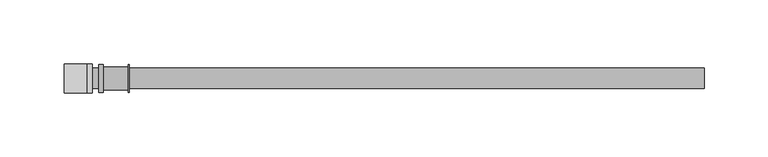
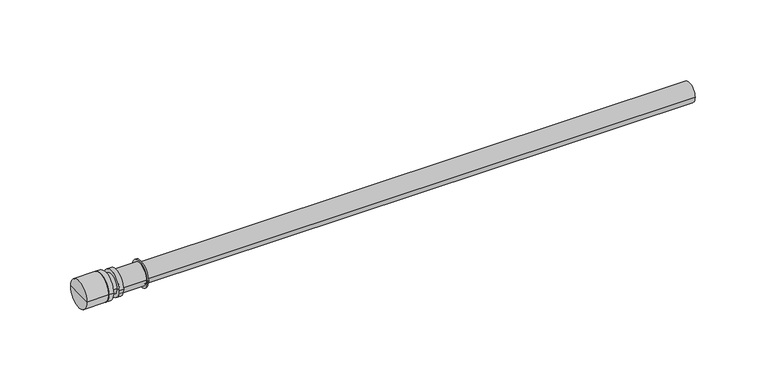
"""IFC4 building model written with IfcOpenShell, lengths in millimetres: pipe fitting geometry, KAN-therm Push 18x2 element połaczeniowy do grzejnika : KAN-therm Push 18x2 element połaczeniowy do grzejnika."""

import ifcopenshell
import ifcopenshell.guid

model = None  # the IFC model being written
_history = None  # IfcOwnerHistory: only IFC2X3 demands one
_inside = {}  # id of a spatial element -> (the spatial element, [elements in it])
_under = {}  # id of a project, library or spatial element -> (it, [spatial elements below it])
_declared = {}  # id of a project -> (the project, [libraries it declares])
_typed = {}  # id of a type object -> (the type object, [elements of that type])
_made_of = {}  # id of a material, layer set ... -> (it, [elements and type objects made of it])


def new_model(schema):
    """Start an empty IFC model of exactly this schema.

    Asked for "IFC4X3", IfcOpenShell would pick the latest addendum, in which some entities
    have other attributes; the version numbers below select the first issue.
    IFC2X3 requires an IfcOwnerHistory on every rooted entity: one is made here for all.
    """
    global model, _history
    if schema == "IFC4X3":
        model = ifcopenshell.file(schema_version=(4, 3, 0, 0))
    else:
        model = ifcopenshell.file(schema=schema)
    _inside.clear()
    _under.clear()
    _declared.clear()
    _typed.clear()
    _made_of.clear()
    _history = None
    if model.schema == "IFC2X3":
        org = make("IfcOrganization", Name="unknown")
        user = make(
            "IfcPersonAndOrganization",
            ThePerson=make("IfcPerson", FamilyName="unknown"),
            TheOrganization=org,
        )
        app = make(
            "IfcApplication",
            ApplicationDeveloper=org,
            Version="unknown",
            ApplicationFullName="unknown",
            ApplicationIdentifier="unknown",
        )
        _history = make(
            "IfcOwnerHistory",
            OwningUser=user,
            OwningApplication=app,
            ChangeAction="ADDED",
            CreationDate=0,
        )
    return model


def make(cls, **values):
    """One entity of the class cls with the attributes given. An attribute that is None is left unset."""
    return model.create_entity(
        cls, **{name: value for name, value in values.items() if value is not None}
    )


def rooted(cls, **values):
    """An entity with a GlobalId (a new one), such as an element, a storey or a relation."""
    return make(cls, GlobalId=ifcopenshell.guid.new(), OwnerHistory=_history, **values)


def si_unit(unit_type, name, prefix=None):
    """IfcSIUnit, for example si_unit("LENGTHUNIT", "METRE", prefix="MILLI")."""
    return make("IfcSIUnit", UnitType=unit_type, Prefix=prefix, Name=name)


def assignment(units):
    """IfcUnitAssignment: the units of a project."""
    return None if units is None else make("IfcUnitAssignment", Units=units)


def point(xyz):
    """IfcCartesianPoint."""
    return None if xyz is None else make("IfcCartesianPoint", Coordinates=xyz)


def direction(xyz):
    """IfcDirection."""
    return None if xyz is None else make("IfcDirection", DirectionRatios=xyz)


def frame(location, z_axis=None, x_axis=None):
    """IfcAxis2Placement3D, a coordinate frame: its origin and axes. An axis left out is left unset."""
    return make(
        "IfcAxis2Placement3D",
        Location=point(location),
        Axis=direction(z_axis),
        RefDirection=direction(x_axis),
    )


def origin():
    """The frame at (0, 0, 0) with its axes left unset."""
    return frame((0.0, 0.0, 0.0))


def place(relative_to, where):
    """IfcLocalPlacement: puts the frame where relative to a parent placement (None: the world)."""
    return make(
        "IfcLocalPlacement", PlacementRelTo=relative_to, RelativePlacement=where
    )


def context(
    kind, dimensions, precision=None, world=None, true_north=None, identifier=None
):
    """IfcGeometricRepresentationContext, for example the 3D "Model" context."""
    return make(
        "IfcGeometricRepresentationContext",
        ContextIdentifier=identifier,
        ContextType=kind,
        CoordinateSpaceDimension=dimensions,
        Precision=precision,
        WorldCoordinateSystem=world,
        TrueNorth=true_north,
    )


def project(units=None, contexts=None):
    """IfcProject with its units and contexts."""
    return rooted(
        "IfcProject",
        Name="project",
        RepresentationContexts=contexts,
        UnitsInContext=assignment(units),
    )


def spatial(cls, under=None, at=None, **own):
    """A site, building, storey or space (cls), placed at a placement, below another one or the project."""
    s = rooted(cls, ObjectPlacement=at, **own)
    if under is not None:
        _under.setdefault(under.id(), (under, []))[1].append(s)
    return s


def circle_curve(where, radius):
    """IfcCircle in the frame where."""
    return make("IfcCircle", Position=where, Radius=radius)


def shape(context_of_items, identifier, shape_type, items):
    """IfcShapeRepresentation: the items that make up one representation, for example the "Body"."""
    return make(
        "IfcShapeRepresentation",
        ContextOfItems=context_of_items,
        RepresentationIdentifier=identifier,
        RepresentationType=shape_type,
        Items=items,
    )


def source(mapping_origin, context_of_items, identifier, shape_type, items):
    """IfcRepresentationMap: a shape defined once, which mapped items show again and again."""
    return make(
        "IfcRepresentationMap",
        MappingOrigin=mapping_origin,
        MappedRepresentation=shape(context_of_items, identifier, shape_type, items),
    )


def transform(
    local_origin,
    x_axis=None,
    y_axis=None,
    z_axis=None,
    scale=None,
    scale2=None,
    scale3=None,
    uniform=True,
):
    """IfcCartesianTransformationOperator3D, or its non-uniform kind. x_axis, y_axis, z_axis: its Axis1, 2, 3."""
    if uniform:
        return make(
            "IfcCartesianTransformationOperator3D",
            Axis1=direction(x_axis),
            Axis2=direction(y_axis),
            LocalOrigin=point(local_origin),
            Scale=scale,
            Axis3=direction(z_axis),
        )
    return make(
        "IfcCartesianTransformationOperator3DnonUniform",
        Axis1=direction(x_axis),
        Axis2=direction(y_axis),
        LocalOrigin=point(local_origin),
        Scale=scale,
        Axis3=direction(z_axis),
        Scale2=scale2,
        Scale3=scale3,
    )


def mapped(mapping_source, mapping_target):
    """IfcMappedItem: shows the shape of a source again, moved by a transform."""
    return make(
        "IfcMappedItem", MappingSource=mapping_source, MappingTarget=mapping_target
    )


def made_of(thing, what):
    """Note that an element or type object is made of a material, layer set ...; save() writes the relation."""
    if what is not None:
        _made_of.setdefault(what.id(), (what, []))[1].append(thing)
    return thing


def element(
    cls,
    number,
    at=None,
    inside=None,
    cuts=None,
    type_object=None,
    material=None,
    context=None,
    identifier="Body",
    shape_type=None,
    held_by="IfcProductDefinitionShape",
    body=None,
    shapes=None,
    **own,
):
    """One element of the class cls, such as IfcWall. Its Tag is "e" and its number.

    at: its placement. inside: the storey or other place that contains it. cuts: it is an
    opening in that element (IfcRelVoidsElement). A single representation is given by context,
    identifier, shape_type and body (its items); several are given by shapes. held_by: the class
    of the entity that holds the representations. save() writes the other relations.
    """
    e = rooted(cls, Tag="e%d" % number, ObjectPlacement=at, **own)
    if body is not None:
        shapes = [shape(context, identifier, shape_type, body)]
    if shapes is not None:
        e.Representation = make(held_by, Representations=shapes)
    if inside is not None:
        _inside.setdefault(inside.id(), (inside, []))[1].append(e)
    if cuts is not None:
        rooted(
            "IfcRelVoidsElement", RelatingBuildingElement=cuts, RelatedOpeningElement=e
        )
    if type_object is not None:
        _typed.setdefault(type_object.id(), (type_object, []))[1].append(e)
    return made_of(e, material)


def aggregate(whole, parts):
    """IfcRelAggregates: a whole, such as a stair, and the parts it consists of."""
    return rooted("IfcRelAggregates", RelatingObject=whole, RelatedObjects=parts)


def save(model, path):
    """Write the relations noted so far, then the file.

    IfcRelAggregates (storeys below a building ...), IfcRelContainedInSpatialStructure (elements
    in a storey), IfcRelDefinesByType, IfcRelAssociatesMaterial and IfcRelDeclares: one each for
    every whole, place, type object, material and project.
    """
    for whole, parts in _under.values():
        aggregate(whole, parts)
    for where, things in _inside.values():
        rooted(
            "IfcRelContainedInSpatialStructure",
            RelatedElements=things,
            RelatingStructure=where,
        )
    for kind, things in _typed.values():
        rooted("IfcRelDefinesByType", RelatedObjects=things, RelatingType=kind)
    for what, things in _made_of.values():
        rooted("IfcRelAssociatesMaterial", RelatedObjects=things, RelatingMaterial=what)
    for by, libraries in _declared.values():
        rooted("IfcRelDeclares", RelatingContext=by, RelatedDefinitions=libraries)
    model.write(path)


def plane_surface(at):
    """IfcPlane: the flat surface through the origin of the frame at, square to its z axis."""
    return make("IfcPlane", Position=at)


def cylinder_surface(at, radius):
    """IfcCylindricalSurface: all points at the distance radius from the z axis of the frame at."""
    return make("IfcCylindricalSurface", Position=at, Radius=radius)


def advanced_brep(points, edges, surfaces, faces):
    """IfcAdvancedBrep: a solid bounded by faces that lie on surfaces and meet in shared edges.

    An edge is (start, end): straight between two places in points (the first is 0);
    or (start, end, curve); or (start, end, curve, False) where it runs against its curve.
    A face is (place in surfaces, loops), or (place, loops, False) where it looks against
    its surface's normal. A loop lists edges by number (the first is 1), with a minus sign
    where the edge is run from its end to its start. The first loop is the outer one.
    """
    corners = [point(p) for p in points]
    vertices = [make("IfcVertexPoint", VertexGeometry=c) for c in corners]
    made = []
    for start, end, *more in edges:
        made.append(
            make(
                "IfcEdgeCurve",
                EdgeStart=vertices[start],
                EdgeEnd=vertices[end],
                EdgeGeometry=more[0] if more else make("IfcPolyline", Points=[corners[start], corners[end]]),
                SameSense=more[1] if len(more) > 1 else True,
            )
        )
    hull = []
    for where, loops, *sense in faces:
        bounds = []
        for j, loop in enumerate(loops):
            ring = [make("IfcOrientedEdge", EdgeElement=made[abs(k) - 1], Orientation=k > 0) for k in loop]
            bounds.append(
                make(
                    "IfcFaceOuterBound" if j == 0 else "IfcFaceBound",
                    Bound=make("IfcEdgeLoop", EdgeList=ring),
                    Orientation=True,
                )
            )
        hull.append(make("IfcAdvancedFace", Bounds=bounds, FaceSurface=surfaces[where], SameSense=sense[0] if sense else True))
    return make("IfcAdvancedBrep", Outer=make("IfcClosedShell", CfsFaces=hull))


def pipe_fitting_e040945a(model_context):
    return source(origin(), model_context, "Body", "AdvancedBrep", [
        advanced_brep(
        [(-5.0, 11.5, 0.0), (-5.0, -11.5, 0.0), (-5.0, 0.0, 0.0), (-1.0, 11.5, 0.0), (-1.0, -11.5, 0.0), (-1.0, 0.0, 0.0)],
        [
            (0, 1, circle_curve(frame((-5.0, 0.0, 0.0), z_axis=(-1.0, 0.0, 0.0), x_axis=(0.0, -1.0, 0.0)), 11.5)),
            (1, 2),
            (2, 0),
            (1, 0, circle_curve(frame((-5.0, 0.0, 0.0), z_axis=(-1.0, 0.0, 0.0), x_axis=(0.0, -1.0, 0.0)), 11.5)),
            (3, 4, circle_curve(frame((-1.0, 0.0, 0.0), z_axis=(-1.0, 0.0, 0.0), x_axis=(0.0, -1.0, 0.0)), 11.5)),
            (4, 1),
            (0, 3),
            (4, 3, circle_curve(frame((-1.0, 0.0, 0.0), z_axis=(-1.0, 0.0, 0.0), x_axis=(0.0, -1.0, 0.0)), 11.5)),
            (5, 4),
            (3, 5),
        ],
        [
            plane_surface(frame((-5.0, 0.0, 0.0), z_axis=(-1.0, 0.0, 0.0), x_axis=(0.0, -1.0, 0.0))),
            cylinder_surface(frame((-2000.0, 0.0, 0.0), z_axis=(1.0, 0.0, 0.0), x_axis=(0.0, -1.0, 0.0)), 11.5),
            plane_surface(frame((-1.0, 0.0, 0.0), z_axis=(1.0, 0.0, 0.0), x_axis=(0.0, -1.0, 0.0))),
        ],
        [
            (0, [[1, 2, 3]]),
            (0, [[4, -3, -2]]),
            (1, [[5, 6, -1, 7]]),
            (1, [[8, -7, -4, -6]]),
            (2, [[9, -5, 10]]),
            (2, [[-10, -8, -9]]),
        ],
    ),
        advanced_brep(
        [(-23.0, 11.5, 0.0), (-23.0, -11.5, 0.0), (-23.0, 0.0, 0.0), (-5.0, 11.5, 0.0), (-5.0, -11.5, 0.0), (-5.0, 0.0, 0.0)],
        [
            (0, 1, circle_curve(frame((-23.0, 0.0, 0.0), z_axis=(-1.0, 0.0, 0.0), x_axis=(0.0, -1.0, 0.0)), 11.5)),
            (1, 2),
            (2, 0),
            (1, 0, circle_curve(frame((-23.0, 0.0, 0.0), z_axis=(-1.0, 0.0, 0.0), x_axis=(0.0, -1.0, 0.0)), 11.5)),
            (3, 4, circle_curve(frame((-5.0, 0.0, 0.0), z_axis=(-1.0, 0.0, 0.0), x_axis=(0.0, -1.0, 0.0)), 11.5)),
            (4, 1),
            (0, 3),
            (4, 3, circle_curve(frame((-5.0, 0.0, 0.0), z_axis=(-1.0, 0.0, 0.0), x_axis=(0.0, -1.0, 0.0)), 11.5)),
            (5, 4),
            (3, 5),
        ],
        [
            plane_surface(frame((-23.0, 0.0, 0.0), z_axis=(-1.0, 0.0, 0.0), x_axis=(0.0, -1.0, 0.0))),
            cylinder_surface(frame((-2000.0, 0.0, 0.0), z_axis=(1.0, 0.0, 0.0), x_axis=(0.0, -1.0, 0.0)), 11.5),
            plane_surface(frame((-5.0, 0.0, 0.0), z_axis=(1.0, 0.0, 0.0), x_axis=(0.0, -1.0, 0.0))),
        ],
        [
            (0, [[1, 2, 3]]),
            (0, [[4, -3, -2]]),
            (1, [[5, 6, -1, 7]]),
            (1, [[8, -7, -4, -6]]),
            (2, [[9, -5, 10]]),
            (2, [[-10, -8, -9]]),
        ],
    ),
        advanced_brep(
        [(7.5, -10.8, 0.0), (7.5, 10.8, 0.0), (7.5, 0.0, 0.0), (4.0, -10.8, 0.0), (4.0, 10.8, 0.0), (4.0, 0.0, 0.0)],
        [
            (0, 1, circle_curve(frame((7.5, 0.0, 0.0), z_axis=(1.0, 0.0, 0.0), x_axis=(0.0, 1.0, 0.0)), 10.8)),
            (1, 2),
            (2, 0),
            (1, 0, circle_curve(frame((7.5, 0.0, 0.0), z_axis=(1.0, 0.0, 0.0), x_axis=(0.0, 1.0, 0.0)), 10.8)),
            (3, 4, circle_curve(frame((4.0, 0.0, 0.0), z_axis=(1.0, 0.0, 0.0), x_axis=(0.0, 1.0, 0.0)), 10.8)),
            (4, 1),
            (0, 3),
            (4, 3, circle_curve(frame((4.0, 0.0, 0.0), z_axis=(1.0, 0.0, 0.0), x_axis=(0.0, 1.0, 0.0)), 10.8)),
            (5, 4),
            (3, 5),
        ],
        [
            plane_surface(frame((7.5, 0.0, 0.0), z_axis=(1.0, 0.0, 0.0), x_axis=(0.0, 1.0, 0.0))),
            cylinder_surface(frame((2005.0, 0.0, 0.0), z_axis=(-1.0, 0.0, 0.0), x_axis=(0.0, 1.0, 0.0)), 10.8),
            plane_surface(frame((4.0, 0.0, 0.0), z_axis=(-1.0, 0.0, 0.0), x_axis=(0.0, 1.0, 0.0))),
        ],
        [
            (0, [[1, 2, 3]]),
            (0, [[4, -3, -2]]),
            (1, [[5, 6, -1, 7]]),
            (1, [[8, -7, -4, -6]]),
            (2, [[9, -5, 10]]),
            (2, [[-10, -8, -9]]),
        ],
    ),
        advanced_brep(
        [(28.0, -10.8, 0.0), (28.0, 10.8, 0.0), (28.0, 0.0, 0.0), (27.2, -10.8, 0.0), (27.2, 10.8, 0.0), (7.5, -9.0, 0.0), (7.5, 9.0, 0.0), (27.2, 9.0, 0.0), (27.2, -9.0, 0.0), (7.5, 0.0, 0.0)],
        [
            (0, 1, circle_curve(frame((28.0, 0.0, 0.0), z_axis=(1.0, 0.0, 0.0), x_axis=(0.0, 1.0, 0.0)), 10.8)),
            (1, 2),
            (2, 0),
            (1, 0, circle_curve(frame((28.0, 0.0, 0.0), z_axis=(1.0, 0.0, 0.0), x_axis=(0.0, 1.0, 0.0)), 10.8)),
            (3, 4, circle_curve(frame((27.2, 0.0, 0.0), z_axis=(1.0, 0.0, 0.0), x_axis=(0.0, 1.0, 0.0)), 10.8)),
            (4, 1),
            (0, 3),
            (4, 3, circle_curve(frame((27.2, 0.0, 0.0), z_axis=(1.0, 0.0, 0.0), x_axis=(0.0, 1.0, 0.0)), 10.8)),
            (5, 6, circle_curve(frame((7.5, 0.0, 0.0), z_axis=(1.0, 0.0, 0.0), x_axis=(0.0, 1.0, 0.0)), 9.0)),
            (6, 7),
            (7, 8, circle_curve(frame((27.2, 0.0, 0.0), z_axis=(-1.0, 0.0, 0.0), x_axis=(0.0, 1.0, 0.0)), 9.0)),
            (8, 5),
            (6, 5, circle_curve(frame((7.5, 0.0, 0.0), z_axis=(1.0, 0.0, 0.0), x_axis=(0.0, 1.0, 0.0)), 9.0)),
            (8, 7, circle_curve(frame((27.2, 0.0, 0.0), z_axis=(-1.0, 0.0, 0.0), x_axis=(0.0, 1.0, 0.0)), 9.0)),
            (9, 6),
            (5, 9),
            (7, 4),
            (3, 8),
        ],
        [
            plane_surface(frame((28.0, 0.0, 0.0), z_axis=(1.0, 0.0, 0.0), x_axis=(0.0, 1.0, 0.0))),
            cylinder_surface(frame((2005.0, 0.0, 0.0), z_axis=(-1.0, 0.0, 0.0), x_axis=(0.0, 1.0, 0.0)), 10.8),
            cylinder_surface(frame((2005.0, 0.0, 0.0), z_axis=(-1.0, 0.0, 0.0), x_axis=(0.0, 1.0, 0.0)), 9.0),
            plane_surface(frame((7.5, 0.0, 0.0), z_axis=(-1.0, 0.0, 0.0), x_axis=(0.0, 1.0, 0.0))),
            plane_surface(frame((27.2, 0.0, 0.0), z_axis=(-1.0, 0.0, 0.0), x_axis=(0.0, 1.0, 0.0))),
        ],
        [
            (0, [[1, 2, 3]]),
            (0, [[4, -3, -2]]),
            (1, [[5, 6, -1, 7]]),
            (1, [[8, -7, -4, -6]]),
            (2, [[9, 10, 11, 12]]),
            (2, [[13, -12, 14, -10]]),
            (3, [[15, -9, 16]]),
            (3, [[-16, -13, -15]]),
            (4, [[-11, 17, -5, 18]]),
            (4, [[-14, -18, -8, -17]]),
        ],
    ),
        advanced_brep(
        [(477.0, -8.0, 0.0), (477.0, 8.0, 0.0), (477.0, 0.0, 0.0), (28.0, -8.0, 0.0), (28.0, 8.0, 0.0), (28.0, 0.0, 0.0)],
        [
            (0, 1, circle_curve(frame((477.0, 0.0, 0.0), z_axis=(1.0, 0.0, 0.0), x_axis=(0.0, 1.0, 0.0)), 8.0)),
            (1, 2),
            (2, 0),
            (1, 0, circle_curve(frame((477.0, 0.0, 0.0), z_axis=(1.0, 0.0, 0.0), x_axis=(0.0, 1.0, 0.0)), 8.0)),
            (3, 4, circle_curve(frame((28.0, 0.0, 0.0), z_axis=(1.0, 0.0, 0.0), x_axis=(0.0, 1.0, 0.0)), 8.0)),
            (4, 1),
            (0, 3),
            (4, 3, circle_curve(frame((28.0, 0.0, 0.0), z_axis=(1.0, 0.0, 0.0), x_axis=(0.0, 1.0, 0.0)), 8.0)),
            (5, 4),
            (3, 5),
        ],
        [
            plane_surface(frame((477.0, 0.0, 0.0), z_axis=(1.0, 0.0, 0.0), x_axis=(0.0, 1.0, 0.0))),
            cylinder_surface(frame((2000.1, 0.0, 0.0), z_axis=(-1.0, 0.0, 0.0), x_axis=(0.0, 1.0, 0.0)), 8.0),
            plane_surface(frame((28.0, 0.0, 0.0), z_axis=(-1.0, 0.0, 0.0), x_axis=(0.0, 1.0, 0.0))),
        ],
        [
            (0, [[1, 2, 3]]),
            (0, [[4, -3, -2]]),
            (1, [[5, 6, -1, 7]]),
            (1, [[8, -7, -4, -6]]),
            (2, [[9, -5, 10]]),
            (2, [[-10, -8, -9]]),
        ],
    ),
        advanced_brep(
        [(5.0, -8.0, 0.0), (5.0, 8.0, 0.0), (5.0, 0.0, 0.0), (-5.0, -8.0, 0.0), (-5.0, 8.0, 0.0), (-5.0, 0.0, 0.0)],
        [
            (0, 1, circle_curve(frame((5.0, 0.0, 0.0), z_axis=(1.0, 0.0, 0.0), x_axis=(0.0, 1.0, 0.0)), 8.0)),
            (1, 2),
            (2, 0),
            (1, 0, circle_curve(frame((5.0, 0.0, 0.0), z_axis=(1.0, 0.0, 0.0), x_axis=(0.0, 1.0, 0.0)), 8.0)),
            (3, 4, circle_curve(frame((-5.0, 0.0, 0.0), z_axis=(1.0, 0.0, 0.0), x_axis=(0.0, 1.0, 0.0)), 8.0)),
            (4, 1),
            (0, 3),
            (4, 3, circle_curve(frame((-5.0, 0.0, 0.0), z_axis=(1.0, 0.0, 0.0), x_axis=(0.0, 1.0, 0.0)), 8.0)),
            (5, 4),
            (3, 5),
        ],
        [
            plane_surface(frame((5.0, 0.0, 0.0), z_axis=(1.0, 0.0, 0.0), x_axis=(0.0, 1.0, 0.0))),
            cylinder_surface(frame((1987.0, 0.0, 0.0), z_axis=(-1.0, 0.0, 0.0), x_axis=(0.0, 1.0, 0.0)), 8.0),
            plane_surface(frame((-5.0, 0.0, 0.0), z_axis=(-1.0, 0.0, 0.0), x_axis=(0.0, 1.0, 0.0))),
        ],
        [
            (0, [[1, 2, 3]]),
            (0, [[4, -3, -2]]),
            (1, [[5, 6, -1, 7]]),
            (1, [[8, -7, -4, -6]]),
            (2, [[9, -5, 10]]),
            (2, [[-10, -8, -9]]),
        ],
    ),
    ])


if __name__ == "__main__":
    model = new_model("IFC4")
    model_context = context("Model", 3, world=origin())
    ifc_project = project(units=[si_unit("LENGTHUNIT", "METRE", prefix="MILLI")], contexts=[model_context])
    site = spatial("IfcSite", under=ifc_project)
    building = spatial("IfcBuilding", under=site)
    placement = place(None, origin())
    pipe_fitting_shape = pipe_fitting_e040945a(model_context)
    element("IfcPipeFitting", 1, ObjectType="KAN-therm Push 18x2 element połaczeniowy do grzejnika : KAN-therm Push 18x2 element połaczeniowy do grzejnika", at=placement, inside=building, context=model_context, shape_type="MappedRepresentation", body=[
        mapped(pipe_fitting_shape, transform((0.0, 0.0, 0.0), x_axis=(1.0, 0.0, 0.0), y_axis=(0.0, 1.0, 0.0), z_axis=(0.0, 0.0, 1.0))),
    ])
    save(model, "model.ifc")
